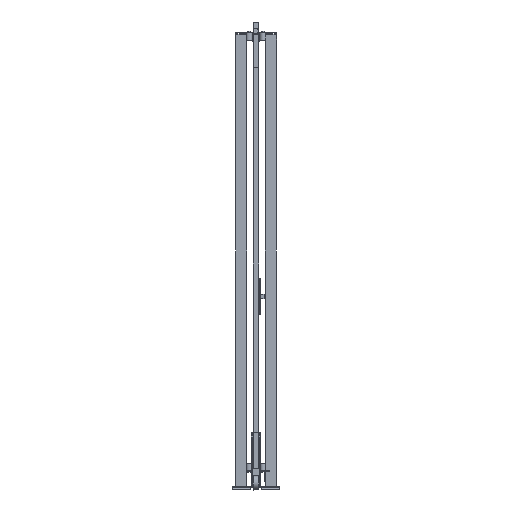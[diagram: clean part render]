
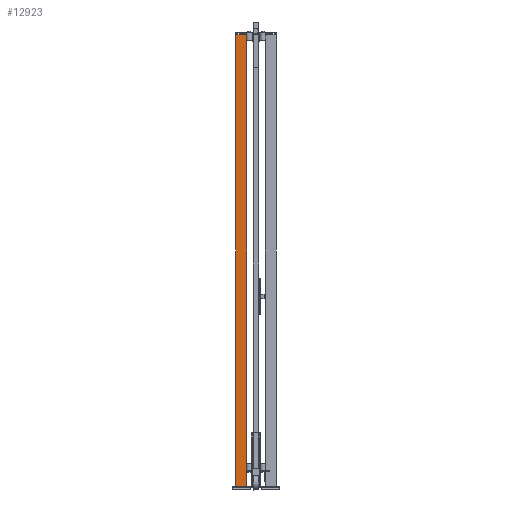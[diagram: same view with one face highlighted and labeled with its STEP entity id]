
A CAD part, left-side view. The second image highlights one B-rep face of the part: STEP entity #12923.
In plain terms, the highlighted planar face has unit normal (-1, 0, 0) as drawn and (0, 1, 0) by its records, which use the part's own axes.
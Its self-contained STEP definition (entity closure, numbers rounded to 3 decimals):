
#1481=FACE_OUTER_BOUND('',#2159,.T.);
#2159=EDGE_LOOP('',(#9365,#9366,#9367,#9368));
#3156=LINE('',#19029,#4804);
#3162=LINE('',#19041,#4810);
#3165=LINE('',#19046,#4813);
#3166=LINE('',#19048,#4814);
#4804=VECTOR('',#15052,1.);
#4810=VECTOR('',#15060,1.);
#4813=VECTOR('',#15067,1.);
#4814=VECTOR('',#15070,1.);
#6206=VERTEX_POINT('',#19026);
#6207=VERTEX_POINT('',#19028);
#6209=VERTEX_POINT('',#19034);
#6212=VERTEX_POINT('',#19039);
#7478=EDGE_CURVE('',#6206,#6207,#3156,.T.);
#7484=EDGE_CURVE('',#6212,#6209,#3162,.T.);
#7487=EDGE_CURVE('',#6207,#6212,#3165,.T.);
#7488=EDGE_CURVE('',#6206,#6209,#3166,.T.);
#9365=ORIENTED_EDGE('',*,*,#7488,.T.);
#9366=ORIENTED_EDGE('',*,*,#7484,.F.);
#9367=ORIENTED_EDGE('',*,*,#7487,.F.);
#9368=ORIENTED_EDGE('',*,*,#7478,.F.);
#12317=PLANE('',#13684);
#12923=ADVANCED_FACE('',(#1481),#12317,.F.);
#13684=AXIS2_PLACEMENT_3D('',#19047,#15068,#15069);
#15052=DIRECTION('',(-1.,0.,0.));
#15060=DIRECTION('',(1.,0.,0.));
#15067=DIRECTION('',(0.,0.,-1.));
#15068=DIRECTION('center_axis',(0.,-1.,0.));
#15069=DIRECTION('ref_axis',(0.,0.,-1.));
#15070=DIRECTION('',(0.,0.,-1.));
#19026=CARTESIAN_POINT('',(30.,30.,2520.));
#19028=CARTESIAN_POINT('',(-30.,30.,2520.));
#19029=CARTESIAN_POINT('',(0.,30.,2520.));
#19034=CARTESIAN_POINT('',(30.,30.,20.));
#19039=CARTESIAN_POINT('',(-30.,30.,20.));
#19041=CARTESIAN_POINT('',(0.,30.,20.));
#19046=CARTESIAN_POINT('',(-30.,30.,1270.));
#19047=CARTESIAN_POINT('Origin',(0.,30.,
1270.));
#19048=CARTESIAN_POINT('',(30.,30.,1270.));
